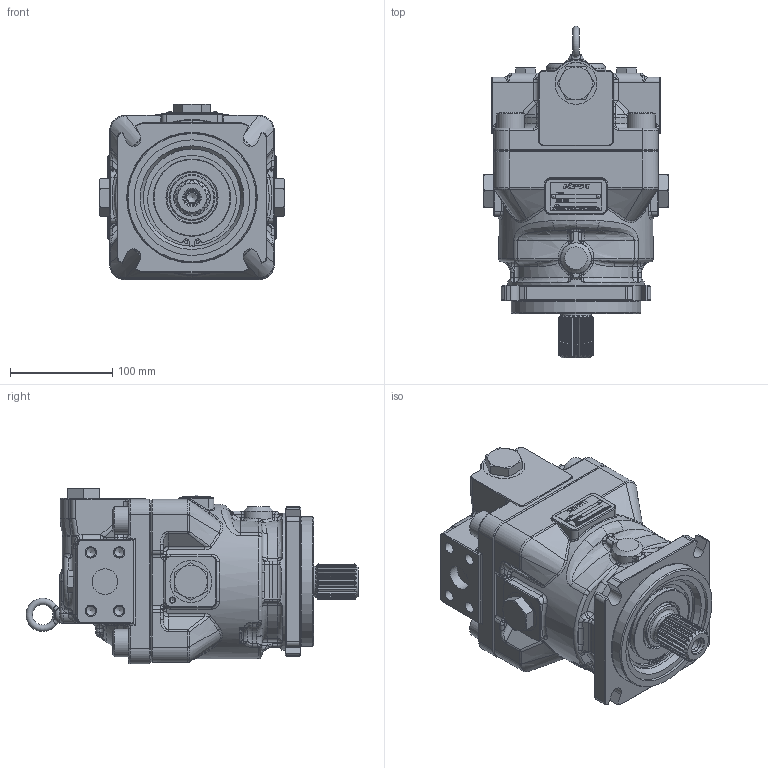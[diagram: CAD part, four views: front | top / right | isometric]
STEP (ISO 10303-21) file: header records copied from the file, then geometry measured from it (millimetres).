
FILE_DESCRIPTION(/* description */ (''),/* implementation_level */ '2;1');
FILE_NAME(/* name */ 'O:\80_個人\10_入業者\林\\X2\63D051FA30C730FC30BF\X0\\2020年度\2020.10.09-M7X\X2\591689B3\X0\-第一回\M7X85AB14.stp',/* time_stamp */ '2020-10-05T08:55:03+09:00',/* author */ ('PG14415'),/* organization */ (''),/* preprocessor_version */ 'ST-DEVELOPER v16.5',/* originating_system */ 'Autodesk Inventor 2017',/* authorisation */ '');
FILE_SCHEMA (('AUTOMOTIVE_DESIGN { 1 0 10303 214 3 1 1 }'));
Products named in the file (1): Part3
Bounding box: 181.02 x 324.75 x 172.01 mm (x, y, z)
Volume: 4538346.6 mm3; surface area: 240926 mm2
Topology: 1 solids, 11 shells, 1982 faces, 4883 edges, 2963 vertices
Faces by surface type: plane 855, cylinder 412, bspline 358, cone 180, torus 124, sphere 53
Full cylindrical faces by diameter (mm): 2.13 x2, 2.2 x4, 2.5 x2, 3 x1, 5 x2, 6 x3, 6.647 x2, 9.144 x8, 10.106 x1, 11.1 x8, 12 x1, 14 x1, 18 x4, 20 x4, 24 x2, 25 x2, 27 x4, 29 x4, 30 x3, 41 x3, 45 x1, 49 x1, 74 x1, 75.5 x1, 95 x2, 98.5 x1, 113 x1, 127 x1, 134 x1, 151 x1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
Entity records: 66596 total; most frequent: CARTESIAN_POINT 20597, ORIENTED_EDGE 9274, DIRECTION 8670, EDGE_CURVE 4637, AXIS2_PLACEMENT_3D 3174, VERTEX_POINT 2893, LINE 2322, VECTOR 2322
